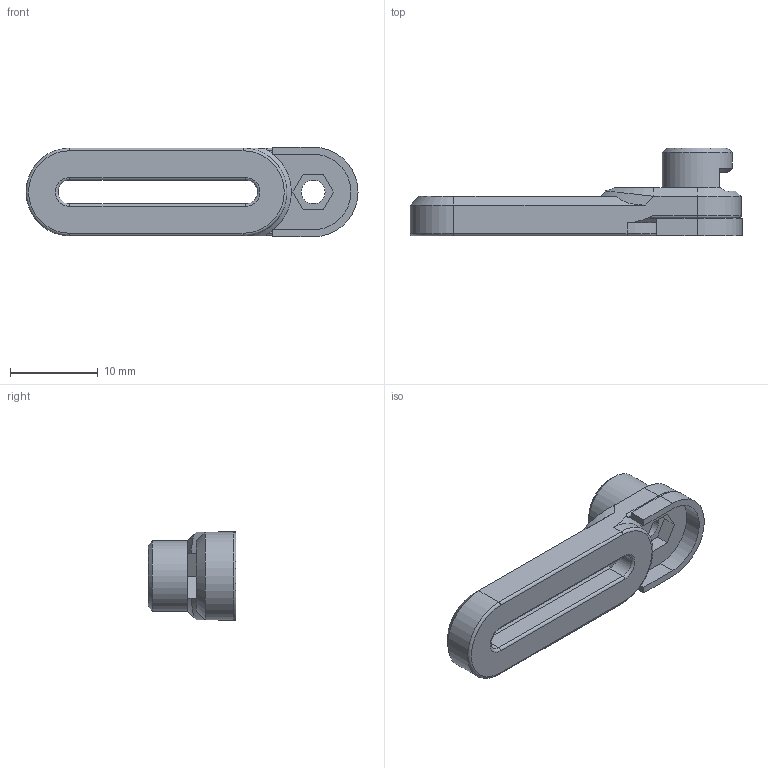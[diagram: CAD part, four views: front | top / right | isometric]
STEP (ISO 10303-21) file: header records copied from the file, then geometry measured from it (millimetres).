
FILE_DESCRIPTION(/* description */ ('STEP AP242','CAx-IF Rec.Pracs.---Representation and Presentation of Product Manufacturing Information (PMI)---4.0---2014-10-13','CAx-IF Rec.Pracs.---3D Tessellated Geometry---0.4---2014-09-14','2;1'),/* implementation_level */ '2;1');
FILE_NAME(/* name */ 'TurtleBot3 Burger - PR30_IBB_01_3D (1)',/* time_stamp */ '2025-02-06T06:27:35Z',/* author */ (''),/* organization */ (''),/* preprocessor_version */ 'ST-DEVELOPER v20',/* originating_system */ 'ONSHAPE BY PTC INC, 1.193',/* authorisation */ ' ');
FILE_SCHEMA (('AP242_MANAGED_MODEL_BASED_3D_ENGINEERING_MIM_LF { 1 0 10303 442 1 1 4 }'));
Length unit declared in the file: metre
Products named in the file (1): PR30_IBB_01_3D
Bounding box: 37.82 x 10 x 10.2 mm (x, y, z)
Volume: 1234 mm3; surface area: 1493.3 mm2
Topology: 1 solids, 1 shells, 78 faces, 205 edges, 130 vertices
Faces by surface type: plane 45, cylinder 18, cone 6, torus 5, bspline 4
Full cylindrical faces by diameter (mm): 2.7 x1, 4 x1, 8 x1
Entity records: 2524 total; most frequent: CARTESIAN_POINT 606, ORIENTED_EDGE 394, DIRECTION 387, EDGE_CURVE 197, AXIS2_PLACEMENT_3D 133, VERTEX_POINT 127, LINE 121, VECTOR 121
